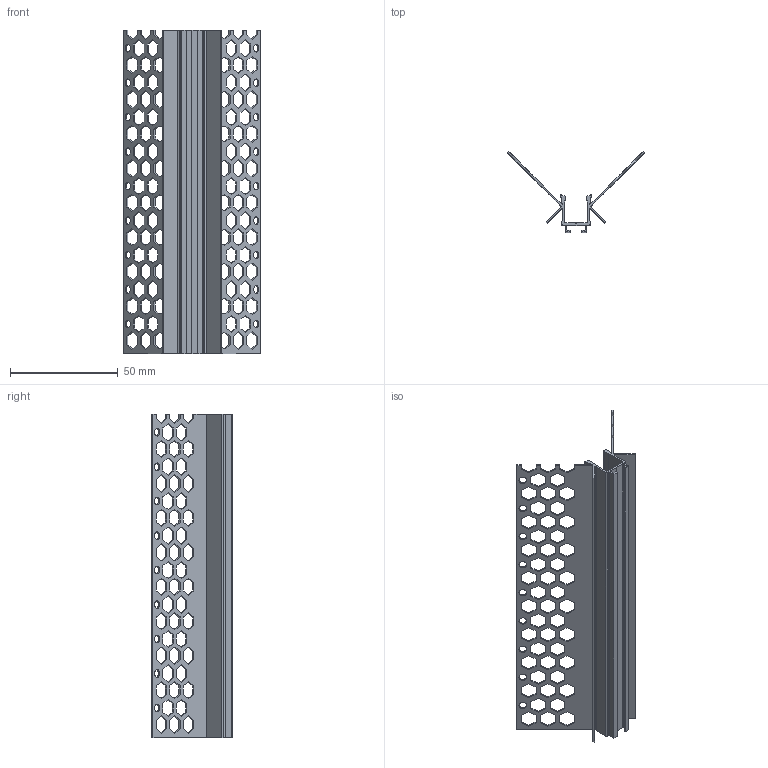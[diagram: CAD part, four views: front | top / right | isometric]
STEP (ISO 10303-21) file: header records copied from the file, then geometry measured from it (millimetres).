
FILE_DESCRIPTION(/* description */ (''),/* implementation_level */ '2;1');
FILE_NAME(/* name */ 'W:\R&D\pub\Katalog techniczny\Bryły PIM\STP\Nowe Glax-y\PA-GLAXGKWK3M-00.stp',/* time_stamp */ '2019-10-09T11:41:12+02:00',/* author */ ('tomaszw'),/* organization */ (''),/* preprocessor_version */ 'ST-DEVELOPER v17.2',/* originating_system */ 'Autodesk Inventor 2019',/* authorisation */ '');
FILE_SCHEMA (('AUTOMOTIVE_DESIGN { 1 0 10303 214 3 1 1 }'));
Length unit declared in the file: millimetre
Products named in the file (2): Assembly1_new_1; GTV-216 -01-01
Assembly tree (1 placements, depth 2):
  Assembly1_new_1
    GTV-216 -01-01
Bounding box: 63.47 x 37.36 x 150 mm (x, y, z)
Volume: 15309.9 mm3; surface area: 36005.8 mm2
Topology: 1 solids, 1 shells, 664 faces, 1986 edges, 1324 vertices
Faces by surface type: plane 616, cylinder 48
Full cylindrical faces by diameter (mm): 3.5 x18
Entity records: 23129 total; most frequent: CARTESIAN_POINT 3977, ORIENTED_EDGE 3972, DIRECTION 3416, EDGE_CURVE 1986, LINE 1890, VECTOR 1890, VERTEX_POINT 1324, EDGE_LOOP 880
